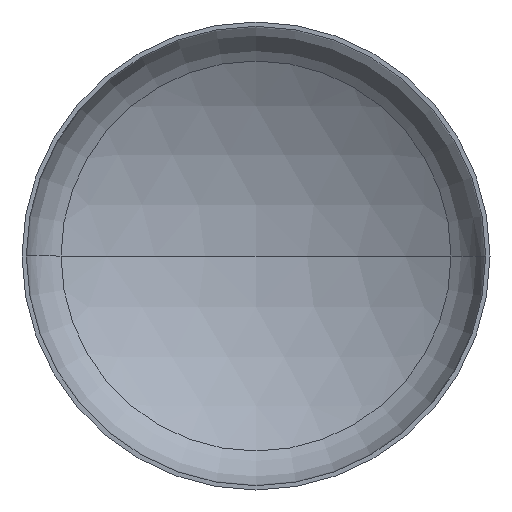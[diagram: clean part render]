
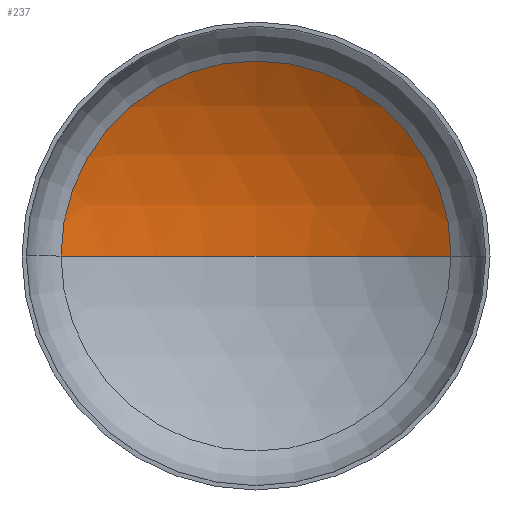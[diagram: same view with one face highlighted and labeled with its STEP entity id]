
A CAD part, front view. The second image highlights one B-rep face of the part: STEP entity #237.
In plain terms, the highlighted spherical face has radius 3600 mm.
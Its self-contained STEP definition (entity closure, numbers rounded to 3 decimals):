
#16 = ORIENTED_EDGE ( 'NONE', *, *, #171, .T. ) ;
#37 = EDGE_LOOP ( 'NONE', ( #58, #57, #16 ) ) ;
#51 = AXIS2_PLACEMENT_3D ( 'NONE', #380, #324, #366 ) ;
#54 = AXIS2_PLACEMENT_3D ( 'NONE', #259, #146, #296 ) ;
#57 = ORIENTED_EDGE ( 'NONE', *, *, #183, .T. ) ;
#58 = ORIENTED_EDGE ( 'NONE', *, *, #186, .F. ) ;
#62 = AXIS2_PLACEMENT_3D ( 'NONE', #398, #239, #149 ) ;
#64 = AXIS2_PLACEMENT_3D ( 'NONE', #193, #345, #213 ) ;
#80 = VERTEX_POINT ( 'NONE', #376 ) ;
#92 = VERTEX_POINT ( 'NONE', #238 ) ;
#101 = FACE_OUTER_BOUND ( 'NONE', #37, .T. ) ;
#131 = VERTEX_POINT ( 'NONE', #392 ) ;
#146 = DIRECTION ( 'NONE',  ( 0., 0., 1. ) ) ;
#148 = CIRCLE ( 'NONE', #54, 3600. ) ;
#149 = DIRECTION ( 'NONE',  ( 1., 0., 0. ) ) ;
#157 = CIRCLE ( 'NONE', #64, 3600. ) ;
#171 = EDGE_CURVE ( 'NONE', #131, #80, #313, .T. ) ;
#183 = EDGE_CURVE ( 'NONE', #92, #131, #157, .T. ) ;
#186 = EDGE_CURVE ( 'NONE', #92, #80, #148, .T. ) ;
#193 = CARTESIAN_POINT ( 'NONE',  ( 0., -2349.89, 0. ) ) ;
#196 = SPHERICAL_SURFACE ( 'NONE', #51, 3600. ) ;
#213 = DIRECTION ( 'NONE',  ( -1., 0., 0. ) ) ;
#237 = ADVANCED_FACE ( 'NONE', ( #101 ), #196, .F. ) ;
#238 = CARTESIAN_POINT ( 'NONE',  ( 0., 1250.11, 0. ) ) ;
#239 = DIRECTION ( 'NONE',  ( 0., -1., 0. ) ) ;
#259 = CARTESIAN_POINT ( 'NONE',  ( 0., -2349.89, 0. ) ) ;
#296 = DIRECTION ( 'NONE',  ( 1., 0., 0. ) ) ;
#313 = CIRCLE ( 'NONE', #62, 1874.974 ) ;
#324 = DIRECTION ( 'NONE',  ( 0., 0., -1. ) ) ;
#345 = DIRECTION ( 'NONE',  ( 0., 0., -1. ) ) ;
#366 = DIRECTION ( 'NONE',  ( -1., 0., 0. ) ) ;
#376 = CARTESIAN_POINT ( 'NONE',  ( -1874.974, 723.296, 0. ) ) ;
#380 = CARTESIAN_POINT ( 'NONE',  ( 0., -2349.89, 0. ) ) ;
#392 = CARTESIAN_POINT ( 'NONE',  ( 1874.974, 723.296, 0. ) ) ;
#398 = CARTESIAN_POINT ( 'NONE',  ( 0., 723.296, 0. ) ) ;
